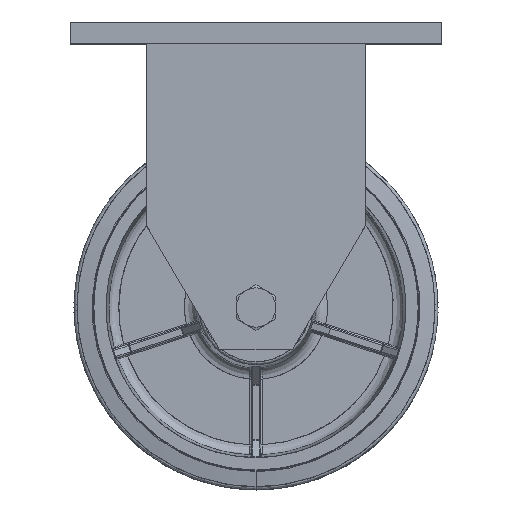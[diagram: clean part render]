
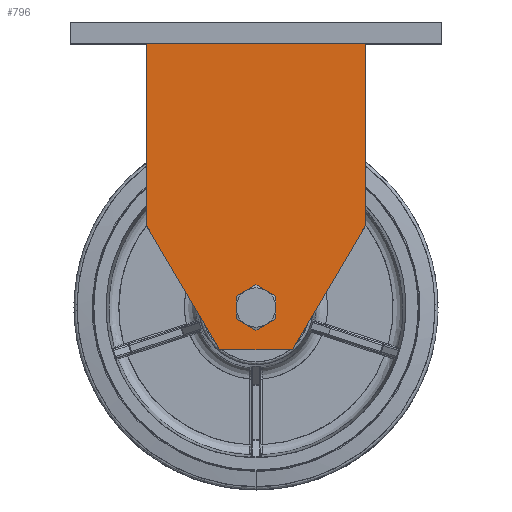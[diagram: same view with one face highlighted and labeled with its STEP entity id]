
A CAD part, top view. The second image highlights one B-rep face of the part: STEP entity #796.
In plain terms, the highlighted planar face has unit normal (0, 0, 1).
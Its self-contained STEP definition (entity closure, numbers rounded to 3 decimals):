
#582=CARTESIAN_POINT('',(75.,0.0,165.0));
#583=VERTEX_POINT('',#582);
#600=CARTESIAN_POINT('',(-75.0,0.0,165.0));
#601=VERTEX_POINT('',#600);
#608=CARTESIAN_POINT('',(75.,0.0,165.0));
#609=DIRECTION('',(-1.0,0.0,0.0));
#610=VECTOR('',#609,150.);
#611=LINE('',#608,#610);
#612=EDGE_CURVE('',#583,#601,#611,.T.);
#631=CARTESIAN_POINT('',(-75.0,-125.,165.0));
#632=VERTEX_POINT('',#631);
#639=CARTESIAN_POINT('',(-75.0,0.0,165.0));
#640=DIRECTION('',(0.0,-1.0,0.0));
#641=VECTOR('',#640,125.);
#642=LINE('',#639,#641);
#643=EDGE_CURVE('',#601,#632,#642,.T.);
#662=CARTESIAN_POINT('',(-25.0,-210.,165.0));
#663=VERTEX_POINT('',#662);
#670=CARTESIAN_POINT('',(-75.0,-125.,165.0));
#671=DIRECTION('',(0.507,-0.862,0.0));
#672=VECTOR('',#671,98.615);
#673=LINE('',#670,#672);
#674=EDGE_CURVE('',#632,#663,#673,.T.);
#693=CARTESIAN_POINT('',(25.0,-210.,165.0));
#694=VERTEX_POINT('',#693);
#701=CARTESIAN_POINT('',(-25.0,-210.,165.0));
#702=DIRECTION('',(1.0,0.0,0.0));
#703=VECTOR('',#702,50.0);
#704=LINE('',#701,#703);
#705=EDGE_CURVE('',#663,#694,#704,.T.);
#724=CARTESIAN_POINT('',(75.,-125.,165.0));
#725=VERTEX_POINT('',#724);
#732=CARTESIAN_POINT('',(25.0,-210.,165.0));
#733=DIRECTION('',(0.507,0.862,0.0));
#734=VECTOR('',#733,98.615);
#735=LINE('',#732,#734);
#736=EDGE_CURVE('',#694,#725,#735,.T.);
#754=CARTESIAN_POINT('',(75.,-125.,165.0));
#755=DIRECTION('',(0.0,1.0,0.0));
#756=VECTOR('',#755,125.);
#757=LINE('',#754,#756);
#758=EDGE_CURVE('',#725,#583,#757,.T.);
#763=CARTESIAN_POINT('',(-90.002,-231.002,165.0));
#764=DIRECTION('',(0.0,0.0,1.0));
#765=DIRECTION('',(1.0,0.0,0.0));
#766=AXIS2_PLACEMENT_3D('',#763,#764,#765);
#767=PLANE('',#766);
#768=ORIENTED_EDGE('',*,*,#612,.T.);
#769=ORIENTED_EDGE('',*,*,#643,.T.);
#770=ORIENTED_EDGE('',*,*,#674,.T.);
#771=ORIENTED_EDGE('',*,*,#705,.T.);
#772=ORIENTED_EDGE('',*,*,#736,.T.);
#773=ORIENTED_EDGE('',*,*,#758,.T.);
#774=EDGE_LOOP('',(#768,#769,#770,#771,#772,#773));
#775=FACE_OUTER_BOUND('',#774,.T.);
#776=CARTESIAN_POINT('',(-9.25,-181.,165.0));
#777=VERTEX_POINT('',#776);
#778=CARTESIAN_POINT('',(9.25,-181.,165.0));
#779=VERTEX_POINT('',#778);
#780=CARTESIAN_POINT('',(0.0,-181.,165.0));
#781=DIRECTION('',(0.0,0.0,1.0));
#782=DIRECTION('',(1.0,0.0,0.0));
#783=AXIS2_PLACEMENT_3D('',#780,#781,#782);
#784=CIRCLE('',#783,9.25);
#785=EDGE_CURVE('',#777,#779,#784,.T.);
#786=ORIENTED_EDGE('',*,*,#785,.F.);
#787=CARTESIAN_POINT('',(0.0,-181.,165.0));
#788=DIRECTION('',(0.0,0.0,1.0));
#789=DIRECTION('',(1.0,0.0,0.0));
#790=AXIS2_PLACEMENT_3D('',#787,#788,#789);
#791=CIRCLE('',#790,9.25);
#792=EDGE_CURVE('',#779,#777,#791,.T.);
#793=ORIENTED_EDGE('',*,*,#792,.F.);
#794=EDGE_LOOP('',(#786,#793));
#795=FACE_BOUND('',#794,.T.);
#796=ADVANCED_FACE('',(#775,#795),#767,.T.);
